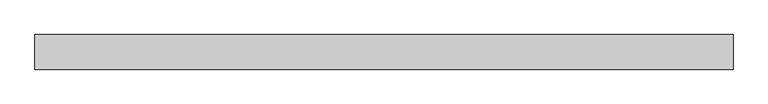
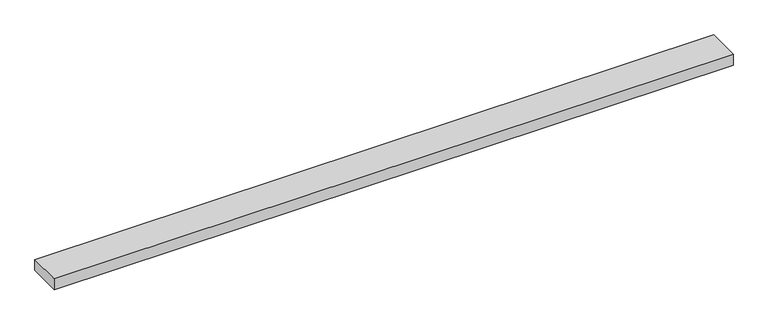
"""IFC4 building model written with IfcOpenShell, lengths in millimetres: proxy geometry, Vita_Решетка : РАП_Алюминиевая продольная."""

from ifc_helpers import new_model, si_unit, frame, origin, place, context, project, spatial, polyline, outline, extrude, source, transform, mapped, element, save


def mechanical_equipment_db04607c(model_context):
    return source(origin(), model_context, "Body", "SweptSolid", [
        extrude(outline(polyline([(-599.0, -112.8), (599.0, -112.8), (599.0, -172.2), (-599.0, -172.2), (-599.0, -112.8)])), frame((0.0, 0.0, 259.83), z_axis=(0.0, 0.0, 1.0), x_axis=(1.0, 0.0, 0.0)), (0.0, 0.0, 1.0), 20.17),
    ])


if __name__ == "__main__":
    model = new_model("IFC4")
    model_context = context("Model", 3, world=origin())
    ifc_project = project(units=[si_unit("LENGTHUNIT", "METRE", prefix="MILLI")], contexts=[model_context])
    site = spatial("IfcSite", under=ifc_project)
    building = spatial("IfcBuilding", under=site)
    placement = place(None, origin())
    mechanical_equipment_shape = mechanical_equipment_db04607c(model_context)
    element("IfcBuildingElementProxy", 1, Name="Vita_Решетка : РАП_Алюминиевая продольная", ObjectType="Vita_Решетка : РАП_Алюминиевая продольная", at=placement, inside=building, context=model_context, shape_type="MappedRepresentation", body=[
        mapped(mechanical_equipment_shape, transform((0.0, 0.0, 0.0), x_axis=(1.0, 0.0, 0.0), y_axis=(0.0, 1.0, 0.0), z_axis=(0.0, 0.0, 1.0))),
    ])
    save(model, "model.ifc")
